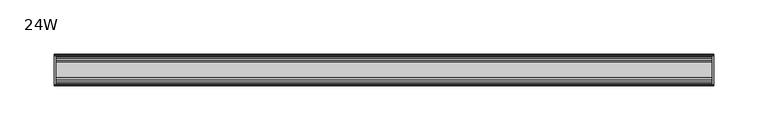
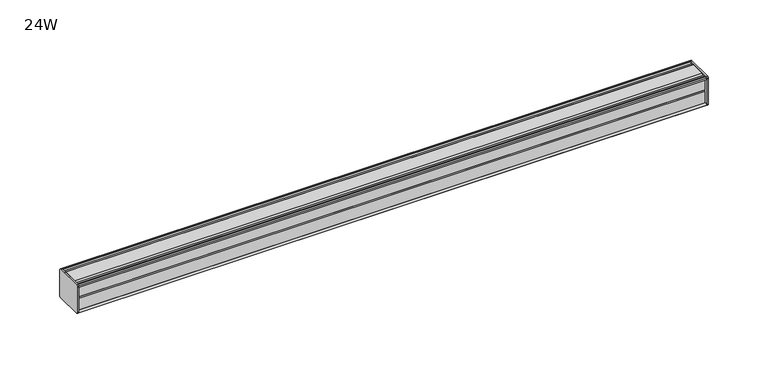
"""IFC4 building model written with IfcOpenShell, lengths in millimetres: furniture geometry, HermanMiller_Compass_TW700_AccessoryRail : 24W."""

from ifc_helpers import new_model, si_unit, frame, origin, place, context, project, spatial, circle_curve, source, transform, mapped, element, save
from ifc_brep_helpers import plane_surface, cylinder_surface, advanced_brep


def furniture_24w_69853d74(model_context):
    return source(origin(), model_context, "Body", "AdvancedBrep", [
        advanced_brep(
        [(303.2125, 14.5851562, 1373.9436262), (303.2125, 14.5851562, 1347.7932877), (303.2125, 14.4138595, 1346.9873997), (303.2125, 13.8374434, 1346.4109837), (303.2125, 12.9019306, 1346.1603131), (303.2125, -13.4067434, 1346.1603131), (303.2125, -14.3040014, 1347.0575711), (303.2125, -14.5851563, 1347.8259798), (303.2125, -14.5851563, 1373.7443327), (303.2125, -14.3040014, 1374.5127414), (303.2125, -13.4464303, 1375.3703125), (303.2125, 13.0500437, 1375.3703125), (303.2125, 13.8374434, 1375.1593288), (303.2125, 14.4138595, 1374.5829128), (304.8, 14.6248431, 1373.7955131), (304.8, 14.4138595, 1374.5829128), (304.8, 13.8374434, 1375.1593288), (304.8, 13.0500437, 1375.3703125), (304.8, -13.4464303, 1375.3703125), (304.8, -14.3040014, 1374.5127414), (304.8, -14.5851563, 1373.7443327), (304.8, -14.5851563, 1347.8259798), (304.8, -14.3040014, 1347.0575711), (304.8, -13.4067434, 1346.1603131), (304.8, 12.9019306, 1346.1603131), (304.8, 13.8374434, 1346.4109837), (304.8, 14.4138595, 1346.9873997), (304.8, 14.5851562, 1347.7932877)],
        [
            (0, 1),
            (1, 2),
            (2, 3),
            (3, 4),
            (4, 5),
            (5, 6),
            (6, 7, circle_curve(frame((303.2125, -13.3945313, 1347.8259798), z_axis=(-1.0, 0.0, 0.0), x_axis=(0.0, 1.0, 0.0)), 1.190625)),
            (7, 8),
            (8, 9, circle_curve(frame((303.2125, -13.3945313, 1373.7443327), z_axis=(-1.0, 0.0, 0.0), x_axis=(0.0, 1.0, 0.0)), 1.190625)),
            (9, 10),
            (10, 11),
            (11, 12),
            (12, 13),
            (13, 0),
            (14, 15),
            (15, 16),
            (16, 17),
            (17, 18),
            (18, 19),
            (19, 20, circle_curve(frame((304.8, -13.3945313, 1373.7443327), z_axis=(1.0, 0.0, 0.0), x_axis=(0.0, 1.0, 0.0)), 1.190625)),
            (20, 21),
            (21, 22, circle_curve(frame((304.8, -13.3945313, 1347.8259798), z_axis=(1.0, 0.0, 0.0), x_axis=(0.0, 1.0, 0.0)), 1.190625)),
            (22, 23),
            (23, 24),
            (24, 25),
            (25, 26),
            (26, 27),
            (27, 14),
            (13, 15),
            (14, 0),
            (12, 16),
            (11, 17),
            (10, 18),
            (9, 19),
            (8, 20),
            (7, 21),
            (6, 22),
            (5, 23),
            (4, 24),
            (3, 25),
            (2, 26),
            (1, 27),
        ],
        [
            plane_surface(frame((303.2125, 14.5851562, 1347.7932877), z_axis=(-1.0, 0.0, 0.0), x_axis=(0.0, 0.0, -1.0))),
            plane_surface(frame((304.8, 14.5851562, 1347.7932877), z_axis=(1.0, 0.0, 0.0), x_axis=(0.0, 0.0, 1.0))),
            plane_surface(frame((303.2125, 14.4138595, 1374.5829128), z_axis=(0.0, 0.9659256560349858, 0.25881968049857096), x_axis=(1.0, 0.0, 0.0))),
            plane_surface(frame((303.2125, 13.8374434, 1375.1593288), z_axis=(0.0, 0.7071067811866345, 0.7071067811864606), x_axis=(1.0, 0.0, 0.0))),
            plane_surface(frame((303.2125, 13.0500437, 1375.3703125), z_axis=(0.0, 0.25881968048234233, 0.9659256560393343), x_axis=(1.0, 0.0, 0.0))),
            plane_surface(frame((303.2125, -13.4464303, 1375.3703125), z_axis=(0.0, 0.0, 1.0), x_axis=(1.0, 0.0, 0.0))),
            plane_surface(frame((303.2125, -14.3040014, 1374.5127414), z_axis=(0.0, -0.7071067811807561, 0.707106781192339), x_axis=(1.0, 0.0, 0.0))),
            cylinder_surface(frame((304.8, -13.3945313, 1373.7443327), z_axis=(-1.0, 0.0, 0.0), x_axis=(0.0, 1.0, 0.0)), 1.190625),
            plane_surface(frame((303.2125, -14.5851563, 1347.8259798), z_axis=(0.0, -1.0, 0.0), x_axis=(1.0, 0.0, 0.0))),
            cylinder_surface(frame((304.8, -13.3945313, 1347.8259798), z_axis=(-1.0, 0.0, 0.0), x_axis=(0.0, 1.0, 0.0)), 1.190625),
            plane_surface(frame((303.2125, -13.4067434, 1346.1603131), z_axis=(0.0, -0.7071067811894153, -0.7071067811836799), x_axis=(1.0, 0.0, 0.0))),
            plane_surface(frame((303.2125, 12.9019306, 1346.1603131), z_axis=(0.0, 0.0, -1.0), x_axis=(1.0, 0.0, 0.0))),
            plane_surface(frame((303.2125, 13.8374434, 1346.4109837), z_axis=(0.0, 0.25881968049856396, -0.9659256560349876), x_axis=(1.0, 0.0, 0.0))),
            plane_surface(frame((303.2125, 14.4138595, 1346.9873997), z_axis=(0.0, 0.7071067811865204, -0.7071067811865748), x_axis=(1.0, 0.0, 0.0))),
            plane_surface(frame((303.2125, 14.5851562, 1347.7932877), z_axis=(0.0, 0.9781476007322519, -0.2079116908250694), x_axis=(1.0, 0.0, 0.0))),
            plane_surface(frame((303.2125, 14.5851562, 1373.9436262), z_axis=(0.0, 1.0, 0.0), x_axis=(1.0, 0.0, 0.0))),
        ],
        [
            (0, [[1, 2, 3, 4, 5, 6, 7, 8, 9, 10, 11, 12, 13, 14]]),
            (1, [[15, 16, 17, 18, 19, 20, 21, 22, 23, 24, 25, 26, 27, 28]]),
            (2, [[-14, 29, -15, 30]]),
            (3, [[-13, 31, -16, -29]]),
            (4, [[-12, 32, -17, -31]]),
            (5, [[-11, 33, -18, -32]]),
            (6, [[-10, 34, -19, -33]]),
            (7, [[-9, 35, -20, -34]]),
            (8, [[-8, 36, -21, -35]]),
            (9, [[-7, 37, -22, -36]]),
            (10, [[-6, 38, -23, -37]]),
            (11, [[-5, 39, -24, -38]]),
            (12, [[-4, 40, -25, -39]]),
            (13, [[-3, 41, -26, -40]]),
            (14, [[-2, 42, -27, -41]]),
            (15, [[-1, -30, -28, -42]]),
        ],
    ),
        advanced_brep(
        [(-303.2125, 14.6248431, 1373.7955131), (-303.2125, 14.4138595, 1374.5829128), (-303.2125, 13.8374434, 1375.1593288), (-303.2125, 13.0500437, 1375.3703125), (-303.2125, -13.4464303, 1375.3703125), (-303.2125, -14.3040014, 1374.5127414), (-303.2125, -14.5851563, 1373.7443327), (-303.2125, -14.5851563, 1347.8259798), (-303.2125, -14.3040014, 1347.0575711), (-303.2125, -13.4067434, 1346.1603131), (-303.2125, 12.9019306, 1346.1603131), (-303.2125, 13.8374434, 1346.4109837), (-303.2125, 14.4138595, 1346.9873997), (-303.2125, 14.5851562, 1347.7932877), (-304.8, 14.5851562, 1373.9436262), (-304.8, 14.5851562, 1347.7932877), (-304.8, 14.4138595, 1346.9873997), (-304.8, 13.8374434, 1346.4109837), (-304.8, 12.9019306, 1346.1603131), (-304.8, -13.4067434, 1346.1603131), (-304.8, -14.3040014, 1347.0575711), (-304.8, -14.5851563, 1347.8259798), (-304.8, -14.5851563, 1373.7443327), (-304.8, -14.3040014, 1374.5127414), (-304.8, -13.4464303, 1375.3703125), (-304.8, 13.0500437, 1375.3703125), (-304.8, 13.8374434, 1375.1593288), (-304.8, 14.4138595, 1374.5829128)],
        [
            (0, 1),
            (1, 2),
            (2, 3),
            (3, 4),
            (4, 5),
            (5, 6, circle_curve(frame((-303.2125, -13.3945313, 1373.7443327), z_axis=(1.0, 0.0, 0.0), x_axis=(0.0, 1.0, 0.0)), 1.190625)),
            (6, 7),
            (7, 8, circle_curve(frame((-303.2125, -13.3945313, 1347.8259798), z_axis=(1.0, 0.0, 0.0), x_axis=(0.0, 1.0, 0.0)), 1.190625)),
            (8, 9),
            (9, 10),
            (10, 11),
            (11, 12),
            (12, 13),
            (13, 0),
            (14, 15),
            (15, 16),
            (16, 17),
            (17, 18),
            (18, 19),
            (19, 20),
            (20, 21, circle_curve(frame((-304.8, -13.3945313, 1347.8259798), z_axis=(-1.0, 0.0, 0.0), x_axis=(0.0, 1.0, 0.0)), 1.190625)),
            (21, 22),
            (22, 23, circle_curve(frame((-304.8, -13.3945313, 1373.7443327), z_axis=(-1.0, 0.0, 0.0), x_axis=(0.0, 1.0, 0.0)), 1.190625)),
            (23, 24),
            (24, 25),
            (25, 26),
            (26, 27),
            (27, 14),
            (0, 14),
            (27, 1),
            (26, 2),
            (25, 3),
            (24, 4),
            (23, 5),
            (22, 6),
            (21, 7),
            (20, 8),
            (19, 9),
            (18, 10),
            (17, 11),
            (16, 12),
            (15, 13),
        ],
        [
            plane_surface(frame((-303.2125, 14.6248431, 1373.7955131), z_axis=(1.0, 0.0, 0.0), x_axis=(0.0, -0.2588196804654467, 0.9659256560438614))),
            plane_surface(frame((-304.8, 14.6248431, 1373.7955131), z_axis=(-1.0, 0.0, 0.0), x_axis=(0.0, 0.2588196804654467, -0.9659256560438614))),
            plane_surface(frame((-303.2125, 14.6248431, 1373.7955131), z_axis=(0.0, 0.9659256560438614, 0.2588196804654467), x_axis=(-1.0, 0.0, 0.0))),
            plane_surface(frame((-303.2125, 14.4138595, 1374.5829128), z_axis=(0.0, 0.7071067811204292, 0.7071067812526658), x_axis=(-1.0, 0.0, 0.0))),
            plane_surface(frame((-303.2125, 13.8374434, 1375.1593288), z_axis=(0.0, 0.25881968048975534, 0.9659256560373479), x_axis=(-1.0, 0.0, 0.0))),
            plane_surface(frame((-303.2125, 13.0500437, 1375.3703125), z_axis=(0.0, 0.0, 1.0), x_axis=(-1.0, 0.0, 0.0))),
            plane_surface(frame((-303.2125, -13.4464303, 1375.3703125), z_axis=(0.0, -0.7071067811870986, 0.7071067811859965), x_axis=(-1.0, 0.0, 0.0))),
            cylinder_surface(frame((-304.8, -13.3945313, 1373.7443327), z_axis=(1.0, 0.0, 0.0), x_axis=(0.0, 1.0, 0.0)), 1.190625),
            plane_surface(frame((-303.2125, -14.5851563, 1373.7443327), z_axis=(0.0, -1.0, 0.0), x_axis=(-1.0, 0.0, 0.0))),
            cylinder_surface(frame((-304.8, -13.3945313, 1347.8259798), z_axis=(1.0, 0.0, 0.0), x_axis=(0.0, 1.0, 0.0)), 1.190625),
            plane_surface(frame((-303.2125, -14.3040014, 1347.0575711), z_axis=(0.0, -0.7071067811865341, -0.7071067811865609), x_axis=(-1.0, 0.0, 0.0))),
            plane_surface(frame((-303.2125, -13.4067434, 1346.1603131), z_axis=(0.0, 0.0, -1.0), x_axis=(-1.0, 0.0, 0.0))),
            plane_surface(frame((-303.2125, 12.9019306, 1346.1603131), z_axis=(0.0, 0.25881968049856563, -0.9659256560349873), x_axis=(-1.0, 0.0, 0.0))),
            plane_surface(frame((-303.2125, 13.8374434, 1346.4109837), z_axis=(0.0, 0.707106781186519, -0.7071067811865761), x_axis=(-1.0, 0.0, 0.0))),
            plane_surface(frame((-303.2125, 14.4138595, 1346.9873997), z_axis=(0.0, 0.9781476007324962, -0.20791169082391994), x_axis=(-1.0, 0.0, 0.0))),
            plane_surface(frame((-303.2125, 14.5851562, 1347.7932877), z_axis=(0.0, 1.0, 0.0), x_axis=(-1.0, 0.0, 0.0))),
        ],
        [
            (0, [[1, 2, 3, 4, 5, 6, 7, 8, 9, 10, 11, 12, 13, 14]]),
            (1, [[15, 16, 17, 18, 19, 20, 21, 22, 23, 24, 25, 26, 27, 28]]),
            (2, [[-1, 29, -28, 30]]),
            (3, [[-2, -30, -27, 31]]),
            (4, [[-3, -31, -26, 32]]),
            (5, [[-4, -32, -25, 33]]),
            (6, [[-5, -33, -24, 34]]),
            (7, [[-6, -34, -23, 35]]),
            (8, [[-7, -35, -22, 36]]),
            (9, [[-8, -36, -21, 37]]),
            (10, [[-9, -37, -20, 38]]),
            (11, [[-10, -38, -19, 39]]),
            (12, [[-11, -39, -18, 40]]),
            (13, [[-12, -40, -17, 41]]),
            (14, [[-13, -41, -16, 42]]),
            (15, [[-14, -42, -15, -29]]),
        ],
    ),
        advanced_brep(
        [(303.2125, -7.3748315, 1375.3703125), (303.2125, -8.9105708, 1374.3395796), (303.2125, -10.7601399, 1374.3395796), (303.2125, -12.2958792, 1375.3703125), (303.2125, -13.4464303, 1375.3703125), (303.2125, -14.3040014, 1374.5127414), (303.2125, -13.3945313, 1372.5537077), (303.2125, -13.3945313, 1373.465312), (303.2125, -12.2039063, 1373.465312), (303.2125, -12.2039063, 1361.5590632), (303.2125, -11.4101564, 1360.7653134), (303.2125, -12.2039063, 1359.9715636), (303.2125, -12.2039063, 1348.0653131), (303.2125, -13.3945313, 1348.0653131), (303.2125, -13.3945313, 1349.0166048), (303.2125, -14.3040014, 1347.0575711), (303.2125, -13.4067434, 1346.1603131), (303.2125, -12.2958792, 1346.1603131), (303.2125, -10.7601399, 1347.1910471), (303.2125, -8.9105708, 1347.1910471), (303.2125, -7.4339628, 1346.2), (303.2125, 7.4145184, 1346.2), (303.2125, 8.9502576, 1347.2307329), (303.2125, 10.7998291, 1347.2307329), (303.2125, 12.2275037, 1346.2), (303.2125, 13.0500437, 1346.2), (303.2125, 13.8374434, 1346.4109837), (303.2125, 14.4138595, 1346.9873997), (303.2125, 14.5851562, 1347.7932877), (303.2125, 14.5851562, 1373.9436262), (303.2125, 14.4138595, 1374.5829128), (303.2125, 13.8374434, 1375.1593288), (303.2125, 13.0500437, 1375.3703125), (303.2125, 12.2275037, 1375.3703125), (303.2125, 10.7998291, 1374.3395796), (303.2125, 8.9502576, 1374.3395796), (303.2125, 7.4145184, 1375.3703125), (-303.2125, -7.3748315, 1375.3703125), (-303.2125, 7.4145184, 1375.3703125), (-303.2125, 8.9502576, 1374.3395796), (-303.2125, 10.7998291, 1374.3395796), (-303.2125, 12.2275037, 1375.3703125), (-303.2125, 13.0500437, 1375.3703125), (-303.2125, 13.8374434, 1375.1593288), (-303.2125, 14.4138595, 1374.5829128), (-303.2125, 14.6248431, 1373.7955131), (-303.2125, 14.5851562, 1347.7932877), (-303.2125, 14.4138595, 1346.9873997), (-303.2125, 13.8374434, 1346.4109837), (-303.2125, 13.0500437, 1346.2), (-303.2125, 12.2275037, 1346.2), (-303.2125, 10.7998291, 1347.2307329), (-303.2125, 8.9502576, 1347.2307329), (-303.2125, 7.4145184, 1346.2), (-303.2125, -7.4339628, 1346.2), (-303.2125, -8.9105708, 1347.1910471), (-303.2125, -10.7601399, 1347.1910471), (-303.2125, -12.2958792, 1346.1603131), (-303.2125, -13.4067434, 1346.1603131), (-303.2125, -14.3040014, 1347.0575711), (-303.2125, -13.3945313, 1349.0166048), (-303.2125, -13.3945313, 1348.0653131), (-303.2125, -12.2039063, 1348.0653131), (-303.2125, -12.2039063, 1359.9715636), (-303.2125, -11.4101564, 1360.7653134), (-303.2125, -12.2039063, 1361.5590632), (-303.2125, -12.2039063, 1373.465312), (-303.2125, -13.3945313, 1373.465312), (-303.2125, -13.3945313, 1372.5537077), (-303.2125, -14.3040014, 1374.5127414), (-303.2125, -13.4464303, 1375.3703125), (-303.2125, -12.2958792, 1375.3703125), (-303.2125, -10.7601399, 1374.3395796), (-303.2125, -8.9105708, 1374.3395796)],
        [
            (0, 1),
            (1, 2),
            (2, 3),
            (3, 4),
            (4, 5),
            (5, 6, circle_curve(frame((303.2125, -13.3945313, 1373.7443327), z_axis=(1.0, 0.0, 0.0), x_axis=(0.0, 1.0, 0.0)), 1.190625)),
            (6, 7),
            (7, 8),
            (8, 9),
            (9, 10),
            (10, 11),
            (11, 12),
            (12, 13),
            (13, 14),
            (14, 15, circle_curve(frame((303.2125, -13.3945313, 1347.8259798), z_axis=(1.0, 0.0, 0.0), x_axis=(0.0, 1.0, 0.0)), 1.190625)),
            (15, 16),
            (16, 17),
            (17, 18),
            (18, 19),
            (19, 20),
            (20, 21),
            (21, 22),
            (22, 23),
            (23, 24),
            (24, 25),
            (25, 26),
            (26, 27),
            (27, 28),
            (28, 29),
            (29, 30),
            (30, 31),
            (31, 32),
            (32, 33),
            (33, 34),
            (34, 35),
            (35, 36),
            (36, 0),
            (37, 38),
            (38, 39),
            (39, 40),
            (40, 41),
            (41, 42),
            (42, 43),
            (43, 44),
            (44, 45),
            (45, 46),
            (46, 47),
            (47, 48),
            (48, 49),
            (49, 50),
            (50, 51),
            (51, 52),
            (52, 53),
            (53, 54),
            (54, 55),
            (55, 56),
            (56, 57),
            (57, 58),
            (58, 59),
            (59, 60, circle_curve(frame((-303.2125, -13.3945313, 1347.8259798), z_axis=(-1.0, 0.0, 0.0), x_axis=(0.0, 1.0, 0.0)), 1.190625)),
            (60, 61),
            (61, 62),
            (62, 63),
            (63, 64),
            (64, 65),
            (65, 66),
            (66, 67),
            (67, 68),
            (68, 69, circle_curve(frame((-303.2125, -13.3945313, 1373.7443327), z_axis=(-1.0, 0.0, 0.0), x_axis=(0.0, 1.0, 0.0)), 1.190625)),
            (69, 70),
            (70, 71),
            (71, 72),
            (72, 73),
            (73, 37),
            (0, 37),
            (73, 1),
            (72, 2),
            (71, 3),
            (70, 4),
            (69, 5),
            (68, 6),
            (67, 7),
            (66, 8),
            (65, 9),
            (64, 10),
            (63, 11),
            (62, 12),
            (61, 13),
            (60, 14),
            (59, 15),
            (58, 16),
            (57, 17),
            (56, 18),
            (55, 19),
            (54, 20),
            (53, 21),
            (52, 22),
            (51, 23),
            (50, 24),
            (49, 25),
            (48, 26),
            (47, 27),
            (46, 28),
            (45, 29),
            (44, 30),
            (43, 31),
            (42, 32),
            (41, 33),
            (40, 34),
            (39, 35),
            (38, 36),
        ],
        [
            plane_surface(frame((303.2125, -7.3748315, 1375.3703125), z_axis=(1.0000000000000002, 0.0, 0.0), x_axis=(0.0, -0.8303227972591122, -0.5572827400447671))),
            plane_surface(frame((-303.2125, -7.3748315, 1375.3703125), z_axis=(-1.0000000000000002, 0.0, 0.0), x_axis=(0.0, 0.8303227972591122, 0.5572827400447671))),
            plane_surface(frame((303.2125, -7.3748315, 1375.3703125), z_axis=(0.0, -0.5572827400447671, 0.8303227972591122), x_axis=(-1.0, 0.0, 0.0))),
            plane_surface(frame((303.2125, -8.9105708, 1374.3395796), z_axis=(0.0, 0.0, 1.0), x_axis=(-1.0, 0.0, 0.0))),
            plane_surface(frame((303.2125, -10.7601399, 1374.3395796), z_axis=(0.0, 0.5572827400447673, 0.8303227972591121), x_axis=(-1.0, 0.0, 0.0))),
            plane_surface(frame((303.2125, -12.2958792, 1375.3703125), z_axis=(0.0, 0.0, 1.0), x_axis=(-1.0, 0.0, 0.0))),
            plane_surface(frame((303.2125, -13.4464303, 1375.3703125), z_axis=(0.0, -0.7071067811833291, 0.7071067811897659), x_axis=(-1.0, 0.0, 0.0))),
            cylinder_surface(frame((-303.2125, -13.3945313, 1373.7443327), z_axis=(1.0, 0.0, 0.0), x_axis=(0.0, 1.0, 0.0)), 1.190625),
            plane_surface(frame((303.2125, -13.3945313, 1372.5537077), z_axis=(0.0, 1.0, 0.0), x_axis=(-1.0, 0.0, 0.0))),
            plane_surface(frame((303.2125, -13.3945313, 1373.465312), z_axis=(0.0, 0.0, -1.0), x_axis=(-1.0, 0.0, 0.0))),
            plane_surface(frame((303.2125, -12.2039063, 1373.465312), z_axis=(0.0, -1.0, 0.0), x_axis=(-1.0, 0.0, 0.0))),
            plane_surface(frame((303.2125, -12.2039063, 1361.5590632), z_axis=(0.0, -0.7071067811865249, -0.7071067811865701), x_axis=(-1.0, 0.0, 0.0))),
            plane_surface(frame((303.2125, -11.4101564, 1360.7653134), z_axis=(0.0, -0.7071067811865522, 0.7071067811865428), x_axis=(-1.0, 0.0, 0.0))),
            plane_surface(frame((303.2125, -12.2039063, 1359.9715636), z_axis=(0.0, -1.0, 0.0), x_axis=(-1.0, 0.0, 0.0))),
            plane_surface(frame((303.2125, -12.2039063, 1348.0653131), z_axis=(0.0, 0.0, 1.0), x_axis=(-1.0, 0.0, 0.0))),
            plane_surface(frame((303.2125, -13.3945313, 1348.0653131), z_axis=(0.0, 1.0, 0.0), x_axis=(-1.0, 0.0, 0.0))),
            cylinder_surface(frame((-303.2125, -13.3945313, 1347.8259798), z_axis=(1.0, 0.0, 0.0), x_axis=(0.0, 1.0, 0.0)), 1.190625),
            plane_surface(frame((303.2125, -14.3040014, 1347.0575711), z_axis=(0.0, -0.7071067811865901, -0.707106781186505), x_axis=(-1.0, 0.0, 0.0))),
            plane_surface(frame((303.2125, -13.4067434, 1346.1603131), z_axis=(0.0, 0.0, -1.0), x_axis=(-1.0, 0.0, 0.0))),
            plane_surface(frame((303.2125, -12.2958792, 1346.1603131), z_axis=(0.0, 0.5572831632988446, -0.8303225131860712), x_axis=(-1.0, 0.0, 0.0))),
            plane_surface(frame((303.2125, -10.7601399, 1347.1910471), z_axis=(0.0, 0.0, -1.0), x_axis=(-1.0, 0.0, 0.0))),
            plane_surface(frame((303.2125, -8.9105708, 1347.1910471), z_axis=(0.0, -0.5572831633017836, -0.8303225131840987), x_axis=(-1.0, 0.0, 0.0))),
            plane_surface(frame((303.2125, -7.4339628, 1346.2), z_axis=(0.0, 0.0, -1.0), x_axis=(-1.0, 0.0, 0.0))),
            plane_surface(frame((303.2125, 7.4145184, 1346.2), z_axis=(0.0, 0.5572827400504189, -0.8303227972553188), x_axis=(-1.0, 0.0, 0.0))),
            plane_surface(frame((303.2125, 8.9502576, 1347.2307329), z_axis=(0.0, 0.0, -1.0), x_axis=(-1.0, 0.0, 0.0))),
            plane_surface(frame((303.2125, 10.7998291, 1347.2307329), z_axis=(0.0, -0.5853541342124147, -0.8107777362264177), x_axis=(-1.0, 0.0, 0.0))),
            plane_surface(frame((303.2125, 12.2275037, 1346.2), z_axis=(0.0, 0.0, -1.0), x_axis=(-1.0, 0.0, 0.0))),
            plane_surface(frame((303.2125, 13.0500437, 1346.2), z_axis=(0.0, 0.2588196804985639, -0.9659256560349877), x_axis=(-1.0, 0.0, 0.0))),
            plane_surface(frame((303.2125, 13.8374434, 1346.4109837), z_axis=(0.0, 0.7071067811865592, -0.7071067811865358), x_axis=(-1.0, 0.0, 0.0))),
            plane_surface(frame((303.2125, 14.4138595, 1346.9873997), z_axis=(0.0, 0.9781476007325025, -0.20791169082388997), x_axis=(-1.0, 0.0, 0.0))),
            plane_surface(frame((303.2125, 14.5851562, 1347.7932877), z_axis=(0.0, 1.0, 0.0), x_axis=(-1.0, 0.0, 0.0))),
            plane_surface(frame((303.2125, 14.6248431, 1373.7955131), z_axis=(0.0, 0.9659256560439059, 0.2588196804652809), x_axis=(-1.0, 0.0, 0.0))),
            plane_surface(frame((303.2125, 14.4138595, 1374.5829128), z_axis=(0.0, 0.7071067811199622, 0.7071067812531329), x_axis=(-1.0, 0.0, 0.0))),
            plane_surface(frame((303.2125, 13.8374434, 1375.1593288), z_axis=(0.0, 0.2588196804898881, 0.9659256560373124), x_axis=(-1.0, 0.0, 0.0))),
            plane_surface(frame((303.2125, 13.0500437, 1375.3703125), z_axis=(0.0, 0.0, 1.0), x_axis=(-1.0, 0.0, 0.0))),
            plane_surface(frame((303.2125, 12.2275037, 1375.3703125), z_axis=(0.0, -0.5853541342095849, 0.8107777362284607), x_axis=(-1.0, 0.0, 0.0))),
            plane_surface(frame((303.2125, 10.7998291, 1374.3395796), z_axis=(0.0, 0.0, 1.0), x_axis=(-1.0, 0.0, 0.0))),
            plane_surface(frame((303.2125, 8.9502576, 1374.3395796), z_axis=(0.0, 0.5572827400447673, 0.8303227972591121), x_axis=(-1.0, 0.0, 0.0))),
            plane_surface(frame((303.2125, 7.4145184, 1375.3703125), z_axis=(0.0, 0.0, 1.0), x_axis=(-1.0, 0.0, 0.0))),
        ],
        [
            (0, [[1, 2, 3, 4, 5, 6, 7, 8, 9, 10, 11, 12, 13, 14, 15, 16, 17, 18, 19, 20, 21, 22, 23, 24, 25, 26, 27, 28, 29, 30, 31, 32, 33, 34, 35, 36, 37]]),
            (1, [[38, 39, 40, 41, 42, 43, 44, 45, 46, 47, 48, 49, 50, 51, 52, 53, 54, 55, 56, 57, 58, 59, 60, 61, 62, 63, 64, 65, 66, 67, 68, 69, 70, 71, 72, 73, 74]]),
            (2, [[-1, 75, -74, 76]]),
            (3, [[-2, -76, -73, 77]]),
            (4, [[-3, -77, -72, 78]]),
            (5, [[-4, -78, -71, 79]]),
            (6, [[-5, -79, -70, 80]]),
            (7, [[-6, -80, -69, 81]]),
            (8, [[-7, -81, -68, 82]]),
            (9, [[-8, -82, -67, 83]]),
            (10, [[-9, -83, -66, 84]]),
            (11, [[-10, -84, -65, 85]]),
            (12, [[-11, -85, -64, 86]]),
            (13, [[-12, -86, -63, 87]]),
            (14, [[-13, -87, -62, 88]]),
            (15, [[-14, -88, -61, 89]]),
            (16, [[-15, -89, -60, 90]]),
            (17, [[-16, -90, -59, 91]]),
            (18, [[-17, -91, -58, 92]]),
            (19, [[-18, -92, -57, 93]]),
            (20, [[-19, -93, -56, 94]]),
            (21, [[-20, -94, -55, 95]]),
            (22, [[-21, -95, -54, 96]]),
            (23, [[-22, -96, -53, 97]]),
            (24, [[-23, -97, -52, 98]]),
            (25, [[-24, -98, -51, 99]]),
            (26, [[-25, -99, -50, 100]]),
            (27, [[-26, -100, -49, 101]]),
            (28, [[-27, -101, -48, 102]]),
            (29, [[-28, -102, -47, 103]]),
            (30, [[-29, -103, -46, 104]]),
            (31, [[-30, -104, -45, 105]]),
            (32, [[-31, -105, -44, 106]]),
            (33, [[-32, -106, -43, 107]]),
            (34, [[-33, -107, -42, 108]]),
            (35, [[-34, -108, -41, 109]]),
            (36, [[-35, -109, -40, 110]]),
            (37, [[-36, -110, -39, 111]]),
            (38, [[-37, -111, -38, -75]]),
        ],
    ),
    ])


if __name__ == "__main__":
    model = new_model("IFC4")
    model_context = context("Model", 3, world=origin())
    ifc_project = project(units=[si_unit("LENGTHUNIT", "METRE", prefix="MILLI")], contexts=[model_context])
    site = spatial("IfcSite", under=ifc_project)
    building = spatial("IfcBuilding", under=site)
    placement = place(None, origin())
    furniture_24w_shape = furniture_24w_69853d74(model_context)
    element("IfcFurniture", 1, ObjectType="HermanMiller_Compass_TW700_AccessoryRail : 24W", at=placement, inside=building, context=model_context, shape_type="MappedRepresentation", body=[
        mapped(furniture_24w_shape, transform((0.0, 0.0, 0.0), x_axis=(1.0, 0.0, 0.0), y_axis=(0.0, 1.0, 0.0), z_axis=(0.0, 0.0, 1.0))),
    ])
    save(model, "model.ifc")
